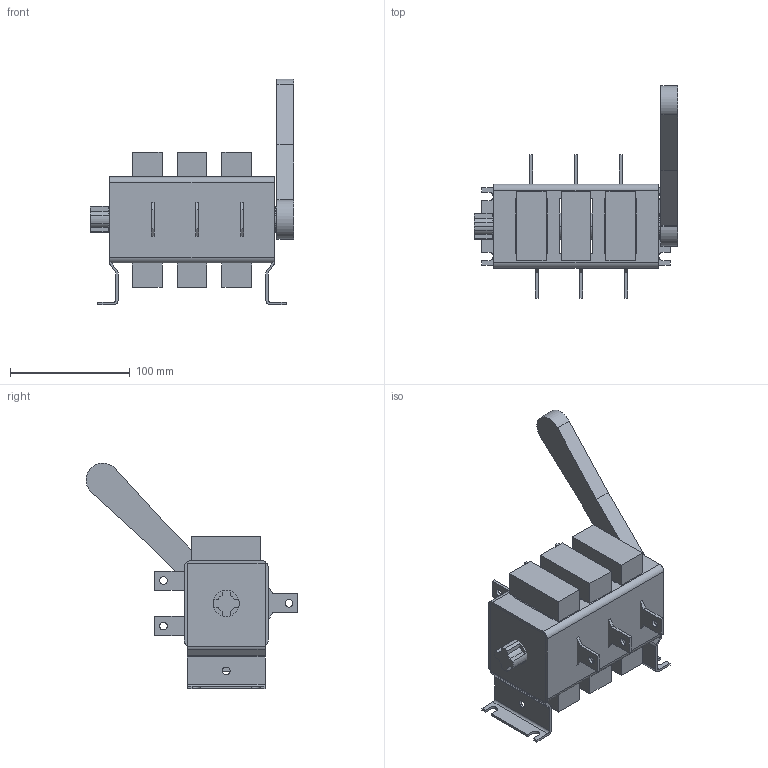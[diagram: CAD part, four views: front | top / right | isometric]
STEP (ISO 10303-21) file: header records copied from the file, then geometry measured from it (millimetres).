
FILE_DESCRIPTION (( 'STEP AP214' ), '1' );
FILE_NAME ('Âûêëþ÷àòåëü-ðàçúåäèíèòåëü ÂÐÓ32Ó_2íàïð_100À íåñúåì ðóê.STEP', '2018-06-22T08:29:09', ( '' ), ( '' ), 'SwSTEP 2.0', 'SolidWorks 2017', '' );
FILE_SCHEMA (( 'AUTOMOTIVE_DESIGN' ));
Length unit declared in the file: millimetre
Products named in the file (1): Âûêëþ÷àòåëü-ðàçúåäèíèòåëü ÂÐÓ32Ó_2íàïð_100À íåñúåì ðóê
Bounding box: 170 x 177.23 x 188.73 mm (x, y, z)
Volume: 781632.7 mm3; surface area: 199321.4 mm2
Topology: 20 solids, 20 shells, 293 faces, 741 edges, 494 vertices
Faces by surface type: plane 226, cylinder 67
Entity records: 10757 total; most frequent: CARTESIAN_POINT 1529, ORIENTED_EDGE 1482, DIRECTION 1479, EDGE_CURVE 741, LINE 591, VECTOR 591, VERTEX_POINT 494, AXIS2_PLACEMENT_3D 444
